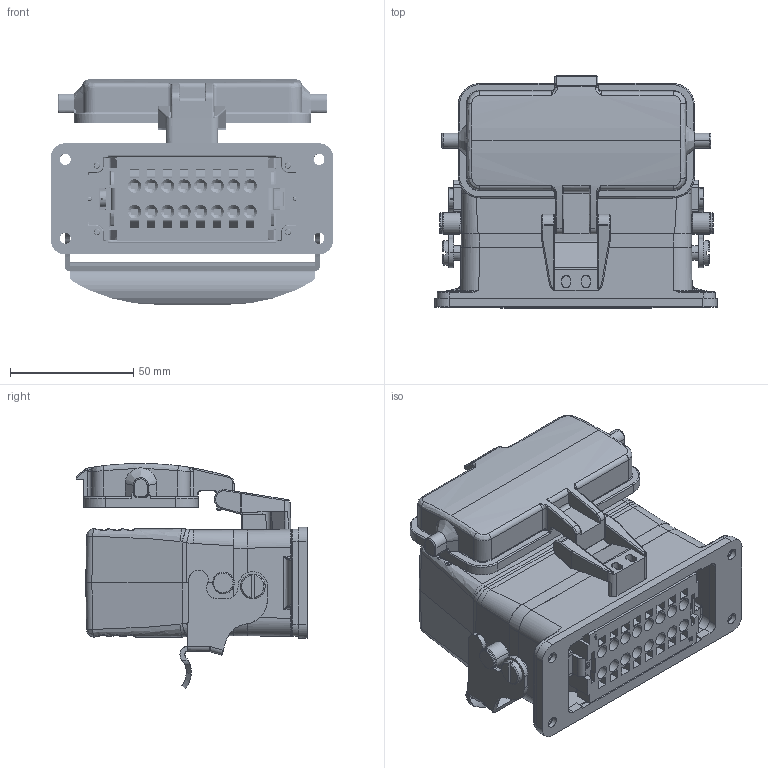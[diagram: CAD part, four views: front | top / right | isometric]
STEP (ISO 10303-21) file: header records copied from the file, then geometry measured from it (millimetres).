
FILE_DESCRIPTION (( 'STEP AP214' ), '1' );
FILE_NAME ('09016106125 HESH、16针、开孔带盖底座、顶出M25套件.STEP', '2024-04-28T05:06:19', ( 'L' ), ( '' ), 'SwSTEP 2.0', 'SolidWorks 2019', '' );
FILE_SCHEMA (( 'AUTOMOTIVE_DESIGN' ));
Length unit declared in the file: millimetre
Products named in the file (5): 09016106125 HESH、16针、开孔带盖底座、顶出M25套件; HESH-016-M.stp; HESH-016-F.stp; H16B-AD-LB.step; H16B-TG-RO-M25.step
Assembly tree (4 placements, depth 2):
  09016106125 HESH、16针、开孔带盖底座、顶出M25套件
    HESH-016-M.stp
    HESH-016-F.stp
    H16B-AD-LB.step
    H16B-TG-RO-M25.step
Bounding box: 114.6 x 94.06 x 91.38 mm (x, y, z)
Volume: 242196.8 mm3; surface area: 141147.1 mm2
Topology: 4 solids, 9 shells, 4308 faces, 11226 edges, 7096 vertices
Faces by surface type: plane 2096, cylinder 1099, bspline 544, cone 463, torus 58, sphere 48
Entity records: 177161 total; most frequent: CARTESIAN_POINT 65507, ORIENTED_EDGE 22262, DIRECTION 18543, EDGE_CURVE 11131, VERTEX_POINT 7092, LINE 6437, VECTOR 6437, AXIS2_PLACEMENT_3D 6053
